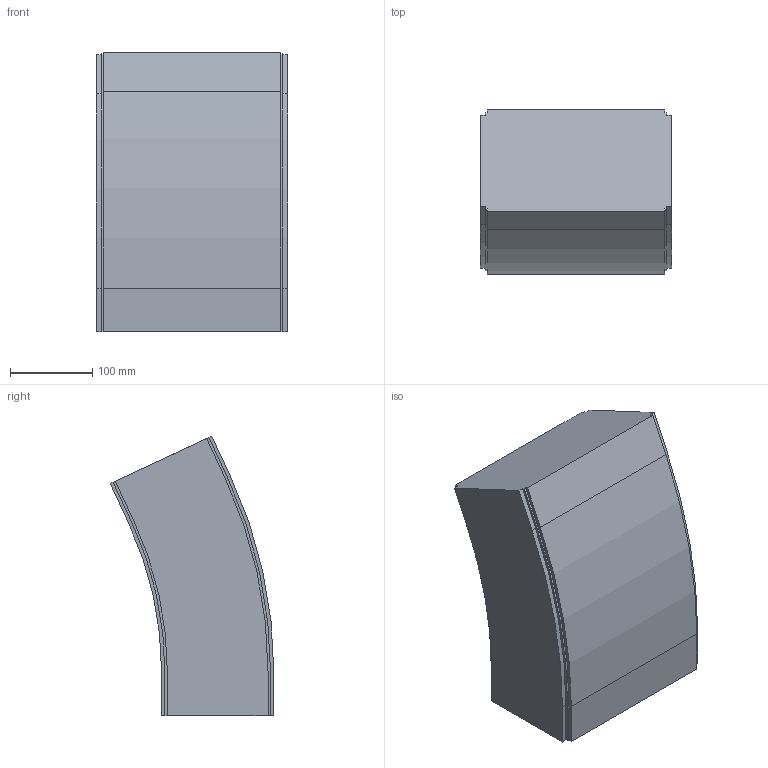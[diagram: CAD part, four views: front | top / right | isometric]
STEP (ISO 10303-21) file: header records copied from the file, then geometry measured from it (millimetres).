
FILE_DESCRIPTION (( 'STEP AP214' ), '1' );
FILE_NAME ('FS-MTC2-150-INOX verticaalbocht.230 25°.STEP', '2017-02-08T12:42:46', ( '' ), ( '' ), 'SwSTEP 2.0', 'SolidWorks 2016', '' );
FILE_SCHEMA (( 'AUTOMOTIVE_DESIGN' ));
Length unit declared in the file: millimetre
Products named in the file (1): FS-MTC2-150-INOX verticaalbocht.230 25°
Bounding box: 232.5 x 199.14 x 340.23 mm (x, y, z)
Volume: 10189897.5 mm3; surface area: 301559.5 mm2
Topology: 1 solids, 1 shells, 42 faces, 120 edges, 80 vertices
Faces by surface type: plane 32, cylinder 10
Entity records: 1398 total; most frequent: CARTESIAN_POINT 243, ORIENTED_EDGE 240, DIRECTION 226, EDGE_CURVE 120, LINE 100, VECTOR 100, VERTEX_POINT 80, AXIS2_PLACEMENT_3D 63
